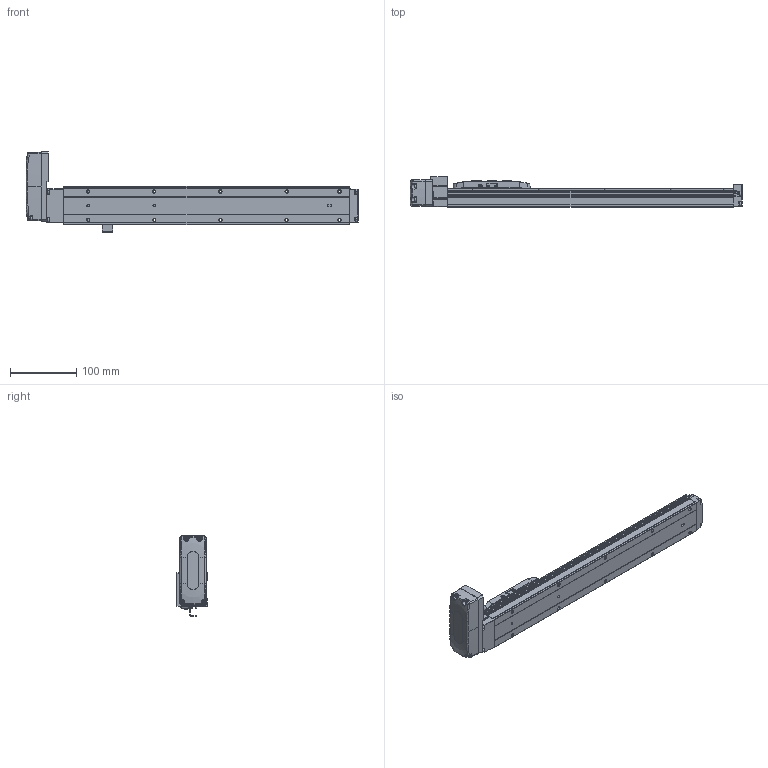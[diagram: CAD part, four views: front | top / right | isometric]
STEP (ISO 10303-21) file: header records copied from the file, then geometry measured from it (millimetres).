
FILE_DESCRIPTION (( 'STEP AP203' ), '1' );
FILE_NAME ('EFS-05L_MY.STEP', '2025-07-17T05:38:49', ( '' ), ( '' ), 'SwSTEP 2.0', 'SolidWorks 2024', '' );
FILE_SCHEMA (( 'CONFIG_CONTROL_DESIGN' ));
Products named in the file (1): EFS-05L_MY
Bounding box: 502 x 46 x 121.64 mm (x, y, z)
Volume: 852367.1 mm3; surface area: 162708.8 mm2
Topology: 24 solids, 24 shells, 1447 faces, 3602 edges, 2226 vertices
Faces by surface type: plane 622, cylinder 507, cone 124, torus 88, bspline 78, sphere 28
Entity records: 46608 total; most frequent: CARTESIAN_POINT 12865, ORIENTED_EDGE 7100, DIRECTION 6970, EDGE_CURVE 3550, AXIS2_PLACEMENT_3D 2530, VERTEX_POINT 2226, VECTOR 1910, LINE 1910
